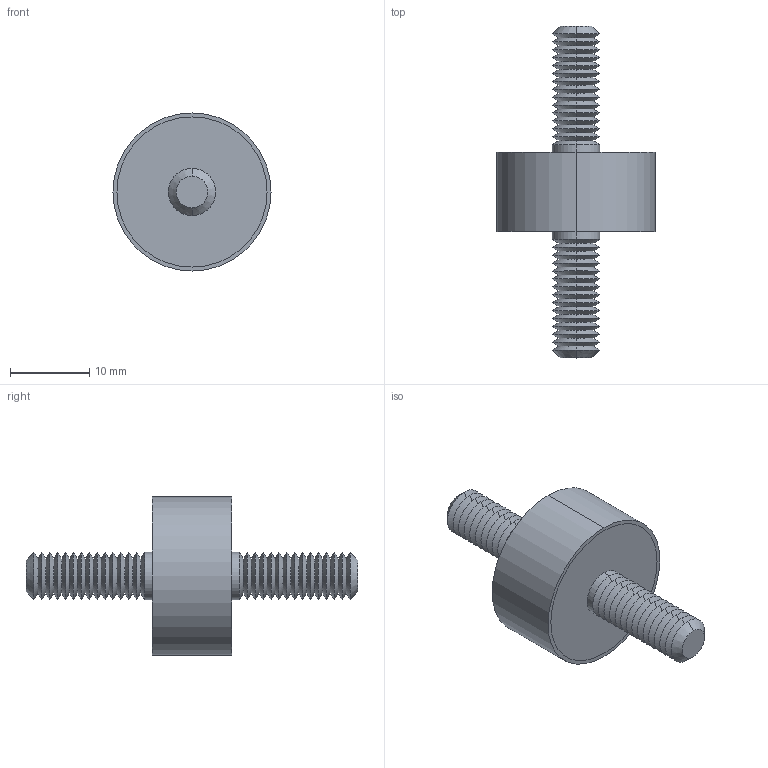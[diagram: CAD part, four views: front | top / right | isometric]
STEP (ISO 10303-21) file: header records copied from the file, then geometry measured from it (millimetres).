
FILE_DESCRIPTION (( 'STEP AP203' ), '1' );
FILE_NAME ('61040.W0203.step', '2019-09-24T22:30:18', ( '' ), ( '' ), 'SwSTEP 2.0', 'SolidWorks 2017', '' );
FILE_SCHEMA (( 'CONFIG_CONTROL_DESIGN' ));
Length unit declared in the file: millimetre
Products named in the file (4): 61040.W0203; Part3_61040.W0203; Part2_61040.W0203; Part1_61040.W0203
Assembly tree (3 placements, depth 2):
  61040.W0203
    Part1_61040.W0203
    Part2_61040.W0203
    Part3_61040.W0203
Bounding box: 20 x 42 x 20 mm (x, y, z)
Volume: 3823.1 mm3; surface area: 3464.1 mm2
Topology: 3 solids, 3 shells, 140 faces, 274 edges, 144 vertices
Faces by surface type: cone 116, cylinder 14, plane 10
Entity records: 3908 total; most frequent: DIRECTION 710, CARTESIAN_POINT 564, ORIENTED_EDGE 548, AXIS2_PLACEMENT_3D 290, EDGE_CURVE 274, EDGE_LOOP 144, CIRCLE 144, VERTEX_POINT 144
